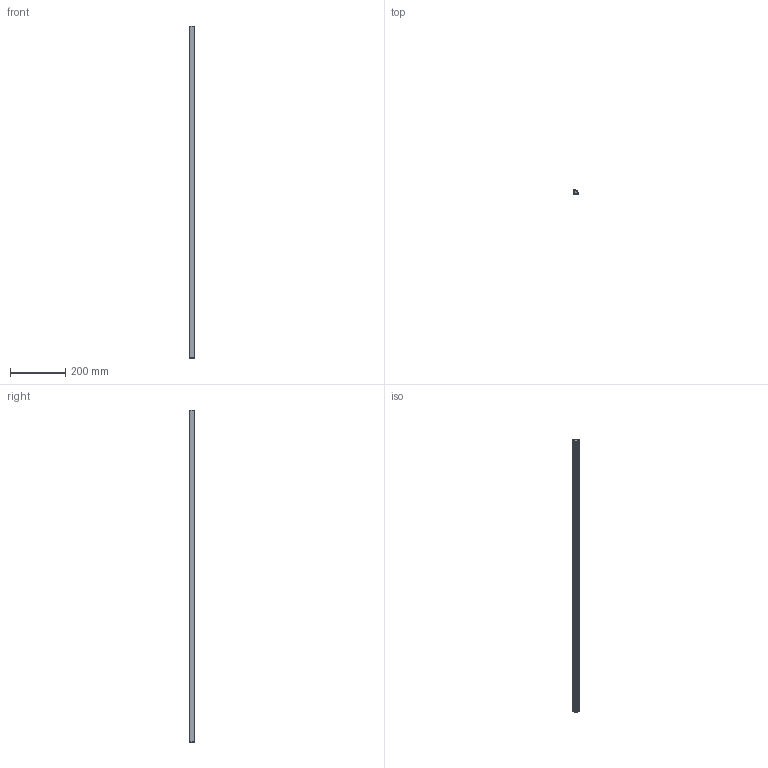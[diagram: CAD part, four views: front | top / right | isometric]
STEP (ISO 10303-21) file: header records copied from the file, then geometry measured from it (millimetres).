
FILE_DESCRIPTION (( 'STEP AP214' ), '1' );
FILE_NAME ('AC2 Assembly.STEP', '2024-10-11T14:18:02', ( '' ), ( '' ), 'SwSTEP 2.0', 'SolidWorks 2023', '' );
FILE_SCHEMA (( 'AUTOMOTIVE_DESIGN' ));
Length unit declared in the file: inch
Products named in the file (4): AC2 End Cap; AC2 Lens; AC2 Assembly; AC2 Profile_1200-R-B
Assembly tree (4 placements, depth 2):
  AC2 Assembly
    AC2 End Cap  x2
    AC2 Lens
    AC2 Profile_1200-R-B
Bounding box: 16 x 16 x 1203.8 mm (x, y, z)
Volume: 77786.1 mm3; surface area: 163163 mm2
Topology: 4 solids, 4 shells, 106 faces, 276 edges, 184 vertices
Faces by surface type: plane 78, cylinder 28
Entity records: 2350 total; most frequent: CARTESIAN_POINT 394, ORIENTED_EDGE 378, DIRECTION 377, EDGE_CURVE 189, VECTOR 159, LINE 159, VERTEX_POINT 126, AXIS2_PLACEMENT_3D 109
